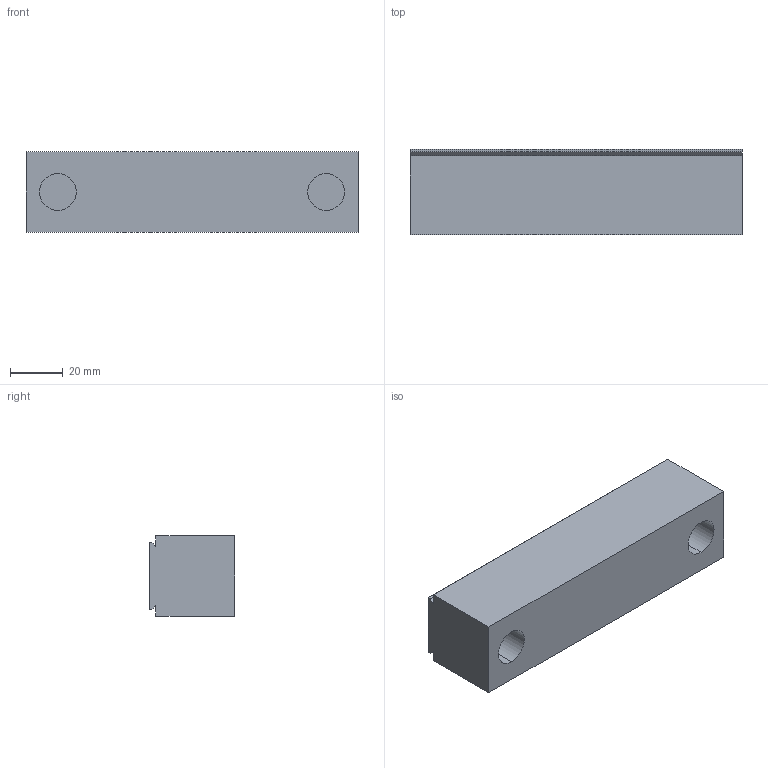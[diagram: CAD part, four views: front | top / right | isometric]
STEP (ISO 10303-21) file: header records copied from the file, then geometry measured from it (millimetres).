
FILE_DESCRIPTION (( 'STEP AP214' ), '1' );
FILE_NAME ('D_V562M-5CDV.STEP', '2020-09-21T18:59:32', ( '' ), ( '' ), 'SwSTEP 2.0', 'SolidWorks 2018', '' );
FILE_SCHEMA (( 'AUTOMOTIVE_DESIGN' ));
Length unit declared in the file: millimetre
Products named in the file (1): D_V562M-5CDV
Bounding box: 125.73 x 32.38 x 30.48 mm (x, y, z)
Volume: 113868.9 mm3; surface area: 23003.6 mm2
Topology: 1 solids, 1 shells, 30 faces, 66 edges, 44 vertices
Faces by surface type: plane 18, cylinder 12
Entity records: 967 total; most frequent: DIRECTION 152, CARTESIAN_POINT 141, ORIENTED_EDGE 132, EDGE_CURVE 66, AXIS2_PLACEMENT_3D 55, VERTEX_POINT 44, VECTOR 42, LINE 42
